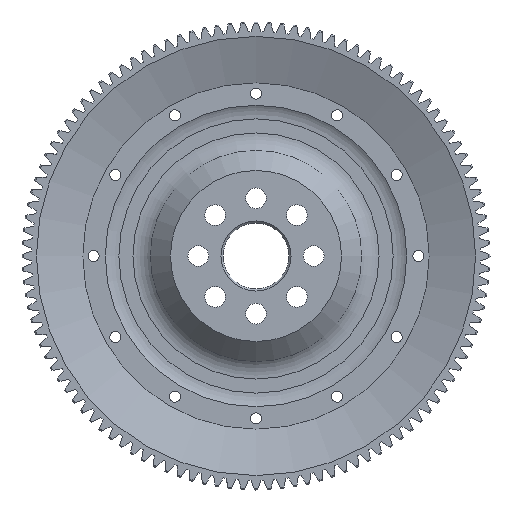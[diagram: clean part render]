
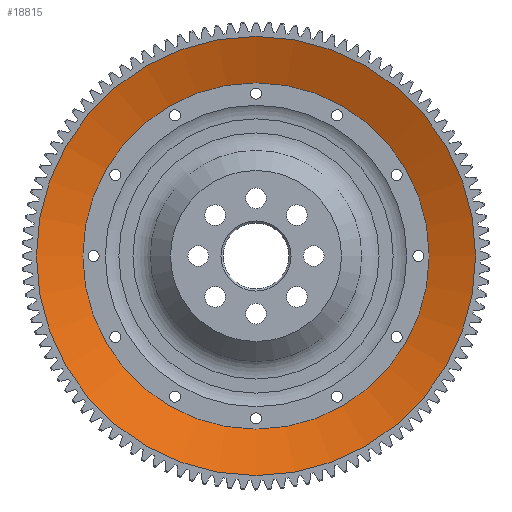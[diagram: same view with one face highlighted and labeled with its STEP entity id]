
A CAD part, left-side view. The second image highlights one B-rep face of the part: STEP entity #18815.
In plain terms, the highlighted conical face has half-angle 68.794 degrees and reference radius 135.255 mm.
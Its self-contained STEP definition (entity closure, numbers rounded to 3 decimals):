
#7274=ORIENTED_EDGE('',*,*,#9396,.F.);
#7275=ORIENTED_EDGE('',*,*,#9392,.T.);
#9392=EDGE_CURVE('',#10798,#10798,#11307,.T.);
#9396=EDGE_CURVE('',#10801,#10801,#11308,.T.);
#10798=VERTEX_POINT('',#29092);
#10801=VERTEX_POINT('',#29100);
#11307=CIRCLE('',#20021,135.255);
#11308=CIRCLE('',#20023,106.68);
#12064=EDGE_LOOP('',(#7274));
#12065=EDGE_LOOP('',(#7275));
#12856=FACE_BOUND('',#12064,.T.);
#12857=FACE_BOUND('',#12065,.T.);
#13137=CONICAL_SURFACE('',#20022,135.255,1.201);
#18815=ADVANCED_FACE('',(#12856,#12857),#13137,.F.);
#20021=AXIS2_PLACEMENT_3D('',#29091,#23536,#23537);
#20022=AXIS2_PLACEMENT_3D('',#29098,#23541,#23542);
#20023=AXIS2_PLACEMENT_3D('',#29099,#23543,#23544);
#23536=DIRECTION('',(-1.,0.,0.));
#23537=DIRECTION('',(0.,0.,1.));
#23541=DIRECTION('',(-1.,0.,0.));
#23542=DIRECTION('',(0.,0.,1.));
#23543=DIRECTION('',(-1.,0.,0.));
#23544=DIRECTION('',(0.,0.,1.));
#29091=CARTESIAN_POINT('',(3.175,0.,0.));
#29092=CARTESIAN_POINT('',(3.175,0.,135.255));
#29098=CARTESIAN_POINT('',(3.175,0.,0.));
#29099=CARTESIAN_POINT('',(14.262,0.,0.));
#29100=CARTESIAN_POINT('',(14.262,0.,106.68));
